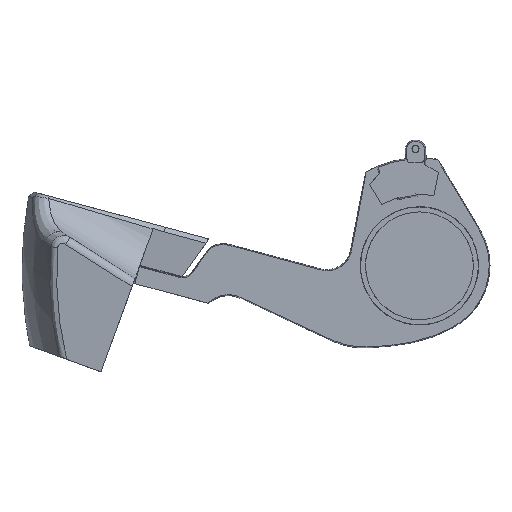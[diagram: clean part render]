
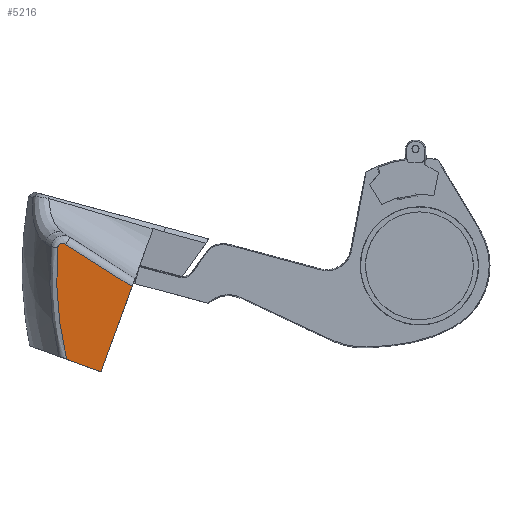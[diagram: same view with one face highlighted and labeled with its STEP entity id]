
A CAD part, front view. The second image highlights one B-rep face of the part: STEP entity #5216.
In plain terms, the highlighted planar face has unit normal (-0.018, -0.999, -0.049).
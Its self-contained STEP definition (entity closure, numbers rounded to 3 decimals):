
#57 = CARTESIAN_POINT ( 'NONE',  ( -618.294, -326.093, 868.969 ) ) ;
#207 = CARTESIAN_POINT ( 'NONE',  ( -604.42, -326.39, 869.954 ) ) ;
#258 = CARTESIAN_POINT ( 'NONE',  ( -609.078, -326.37, 871.248 ) ) ;
#800 = CARTESIAN_POINT ( 'NONE',  ( -982.079, -312., 715.211 ) ) ;
#849 = DIRECTION ( 'NONE',  ( 0., 0.049, -0.999 ) ) ;
#914 = B_SPLINE_CURVE_WITH_KNOTS ( 'NONE', 3,
 ( #2676, #12512, #11187, #12462, #13687, #2830, #14995, #6447, #7677, #13637 ),
 .UNSPECIFIED., .F., .F.,
 ( 4, 2, 2, 2, 4 ),
 ( 0., 0.245, 0.497, 0.748, 1. ),
 .UNSPECIFIED. ) ;
#919 = CARTESIAN_POINT ( 'NONE',  ( -512.232, -312., 544.201 ) ) ;
#1108 = CARTESIAN_POINT ( 'NONE',  ( -614.431, -326.254, 870.846 ) ) ;
#1232 = ORIENTED_EDGE ( 'NONE', *, *, #9719, .F. ) ;
#1258 = CARTESIAN_POINT ( 'NONE',  ( -620.889, -325.912, 866.249 ) ) ;
#1304 = CARTESIAN_POINT ( 'NONE',  ( -612.841, -326.3, 871.191 ) ) ;
#1399 = CARTESIAN_POINT ( 'NONE',  ( -600.148, -312., 576.2 ) ) ;
#1450 = CARTESIAN_POINT ( 'NONE',  ( -433.143, -324.119, 761.497 ) ) ;
#2334 = EDGE_CURVE ( 'NONE', #11633, #8070, #7895, .T. ) ;
#2474 = CARTESIAN_POINT ( 'NONE',  ( -617.393, -326.138, 869.56 ) ) ;
#2494 = DIRECTION ( 'NONE',  ( 0.342, -0.052, 0.938 ) ) ;
#2676 = CARTESIAN_POINT ( 'NONE',  ( -600.148, -312., 576.2 ) ) ;
#2830 = CARTESIAN_POINT ( 'NONE',  ( -624.421, -319.662, 740.616 ) ) ;
#3540 = CARTESIAN_POINT ( 'NONE',  ( -622.605, -325.633, 861.198 ) ) ;
#3584 = CARTESIAN_POINT ( 'NONE',  ( -619.888, -325.993, 867.517 ) ) ;
#3683 = CARTESIAN_POINT ( 'NONE',  ( -616.681, -326.17, 869.955 ) ) ;
#5166 = VECTOR ( 'NONE', #5340, 1000. ) ;
#5216 = ADVANCED_FACE ( 'NONE', ( #6512 ), #10593, .T. ) ;
#5340 = DIRECTION ( 'NONE',  ( -0.844, -0.011, 0.536 ) ) ;
#5942 = ORIENTED_EDGE ( 'NONE', *, *, #10239, .F. ) ;
#6076 = CARTESIAN_POINT ( 'NONE',  ( -621.427, -325.857, 865.319 ) ) ;
#6131 = CARTESIAN_POINT ( 'NONE',  ( -613.908, -326.271, 870.982 ) ) ;
#6183 = CARTESIAN_POINT ( 'NONE',  ( -611.234, -326.336, 871.342 ) ) ;
#6187 = VECTOR ( 'NONE', #2494, 1000. ) ;
#6284 = CARTESIAN_POINT ( 'NONE',  ( -610.697, -326.346, 871.35 ) ) ;
#6344 = CARTESIAN_POINT ( 'NONE',  ( -609.618, -326.363, 871.3 ) ) ;
#6447 = CARTESIAN_POINT ( 'NONE',  ( -625.442, -323.196, 812.755 ) ) ;
#6512 = FACE_OUTER_BOUND ( 'NONE', #12023, .T. ) ;
#6875 = CARTESIAN_POINT ( 'NONE',  ( -982.079, -312., 715.211 ) ) ;
#7317 = CARTESIAN_POINT ( 'NONE',  ( -618.718, -326.069, 868.639 ) ) ;
#7503 = AXIS2_PLACEMENT_3D ( 'NONE', #800, #15283, #849 ) ;
#7566 = CARTESIAN_POINT ( 'NONE',  ( -603.451, -326.384, 869.471 ) ) ;
#7677 = CARTESIAN_POINT ( 'NONE',  ( -624.515, -324.403, 836.927 ) ) ;
#7895 = LINE ( 'NONE', #6875, #13802 ) ;
#8070 = VERTEX_POINT ( 'NONE', #919 ) ;
#8174 = CARTESIAN_POINT ( 'NONE',  ( -619.513, -326.019, 867.91 ) ) ;
#8456 = CARTESIAN_POINT ( 'NONE',  ( -621.666, -325.829, 864.834 ) ) ;
#8600 = CARTESIAN_POINT ( 'NONE',  ( -621.299, -325.871, 865.556 ) ) ;
#8652 = CARTESIAN_POINT ( 'NONE',  ( -609.888, -326.359, 871.318 ) ) ;
#8759 = CARTESIAN_POINT ( 'NONE',  ( -604.92, -326.392, 870.172 ) ) ;
#8977 = LINE ( 'NONE', #12452, #5166 ) ;
#9087 = ORIENTED_EDGE ( 'NONE', *, *, #2334, .T. ) ;
#9447 = LINE ( 'NONE', #10862, #6187 ) ;
#9651 = CARTESIAN_POINT ( 'NONE',  ( -620.068, -325.979, 867.314 ) ) ;
#9719 = EDGE_CURVE ( 'NONE', #13902, #10957, #10608, .T. ) ;
#9752 = CARTESIAN_POINT ( 'NONE',  ( -620.581, -325.94, 866.689 ) ) ;
#9807 = CARTESIAN_POINT ( 'NONE',  ( -612.307, -326.313, 871.262 ) ) ;
#9864 = CARTESIAN_POINT ( 'NONE',  ( -606.435, -326.393, 870.741 ) ) ;
#10239 = EDGE_CURVE ( 'NONE', #11633, #13902, #914, .T. ) ;
#10593 = PLANE ( 'NONE',  #7503 ) ;
#10608 = B_SPLINE_CURVE_WITH_KNOTS ( 'NONE', 3,
 ( #3540, #12041, #13384, #12228, #15503, #10885, #8456, #6076, #8600, #1258, #9752, #9651, #3584, #8174, #12087, #7317, #57, #13338, #2474, #10979, #3683, #13480, #13430, #1108, #6131, #1304, #9807, #6183, #6284, #8652, #6344, #258, #14893, #13587, #9864, #8759, #207, #7566, #13690, #11190 ),
 .UNSPECIFIED., .F., .F.,
 ( 4, 2, 2, 2, 2, 2, 2, 2, 2, 2, 2, 2, 2, 2, 2, 2, 2, 2, 2, 4 ),
 ( 0., 0.063, 0.125, 0.156, 0.188, 0.25, 0.281, 0.313, 0.375, 0.406, 0.438, 0.5, 0.563, 0.625, 0.687, 0.719, 0.75, 0.875, 0.938, 1. ),
 .UNSPECIFIED. ) ;
#10862 = CARTESIAN_POINT ( 'NONE',  ( -512.232, -312., 544.201 ) ) ;
#10885 = CARTESIAN_POINT ( 'NONE',  ( -621.777, -325.814, 864.585 ) ) ;
#10901 = EDGE_CURVE ( 'NONE', #8070, #13067, #9447, .T. ) ;
#10957 = VERTEX_POINT ( 'NONE', #15808 ) ;
#10979 = CARTESIAN_POINT ( 'NONE',  ( -616.922, -326.16, 869.829 ) ) ;
#11187 = CARTESIAN_POINT ( 'NONE',  ( -610.259, -314.084, 622.203 ) ) ;
#11190 = CARTESIAN_POINT ( 'NONE',  ( -602.52, -326.373, 868.914 ) ) ;
#11633 = VERTEX_POINT ( 'NONE', #1399 ) ;
#12023 = EDGE_LOOP ( 'NONE', ( #14666, #13143, #1232, #5942, #9087 ) ) ;
#12041 = CARTESIAN_POINT ( 'NONE',  ( -622.562, -325.66, 861.74 ) ) ;
#12087 = CARTESIAN_POINT ( 'NONE',  ( -619.319, -326.032, 868.098 ) ) ;
#12228 = CARTESIAN_POINT ( 'NONE',  ( -622.238, -325.744, 863.318 ) ) ;
#12395 = CARTESIAN_POINT ( 'NONE',  ( -622.605, -325.633, 861.198 ) ) ;
#12452 = CARTESIAN_POINT ( 'NONE',  ( -433.143, -324.119, 761.497 ) ) ;
#12462 = CARTESIAN_POINT ( 'NONE',  ( -617.749, -316.257, 669.041 ) ) ;
#12512 = CARTESIAN_POINT ( 'NONE',  ( -605.662, -313.032, 599.155 ) ) ;
#12892 = DIRECTION ( 'NONE',  ( 0.94, 0., -0.342 ) ) ;
#13067 = VERTEX_POINT ( 'NONE', #1450 ) ;
#13143 = ORIENTED_EDGE ( 'NONE', *, *, #14092, .T. ) ;
#13338 = CARTESIAN_POINT ( 'NONE',  ( -617.623, -326.127, 869.417 ) ) ;
#13384 = CARTESIAN_POINT ( 'NONE',  ( -622.48, -325.688, 862.273 ) ) ;
#13430 = CARTESIAN_POINT ( 'NONE',  ( -615.452, -326.22, 870.509 ) ) ;
#13480 = CARTESIAN_POINT ( 'NONE',  ( -615.951, -326.201, 870.308 ) ) ;
#13587 = CARTESIAN_POINT ( 'NONE',  ( -607.474, -326.387, 871.014 ) ) ;
#13637 = CARTESIAN_POINT ( 'NONE',  ( -622.605, -325.633, 861.198 ) ) ;
#13687 = CARTESIAN_POINT ( 'NONE',  ( -620.598, -317.378, 692.837 ) ) ;
#13690 = CARTESIAN_POINT ( 'NONE',  ( -602.979, -326.379, 869.205 ) ) ;
#13802 = VECTOR ( 'NONE', #12892, 1000. ) ;
#13902 = VERTEX_POINT ( 'NONE', #12395 ) ;
#14092 = EDGE_CURVE ( 'NONE', #13067, #10957, #8977, .T. ) ;
#14666 = ORIENTED_EDGE ( 'NONE', *, *, #10901, .T. ) ;
#14893 = CARTESIAN_POINT ( 'NONE',  ( -608.809, -326.373, 871.215 ) ) ;
#14995 = CARTESIAN_POINT ( 'NONE',  ( -625.396, -320.826, 764.599 ) ) ;
#15283 = DIRECTION ( 'NONE',  ( -0.018, -0.999, -0.049 ) ) ;
#15503 = CARTESIAN_POINT ( 'NONE',  ( -622.078, -325.772, 863.831 ) ) ;
#15808 = CARTESIAN_POINT ( 'NONE',  ( -602.52, -326.373, 868.914 ) ) ;
